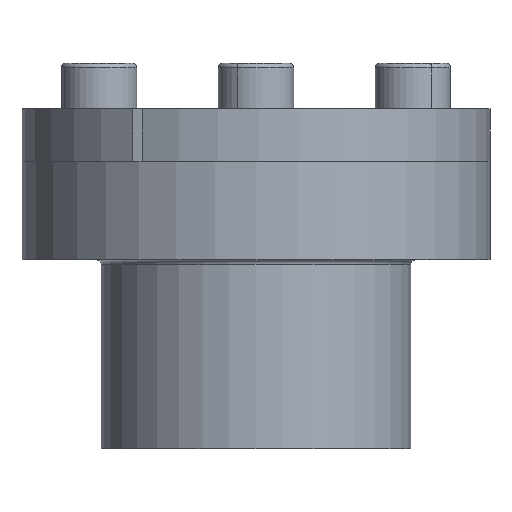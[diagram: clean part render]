
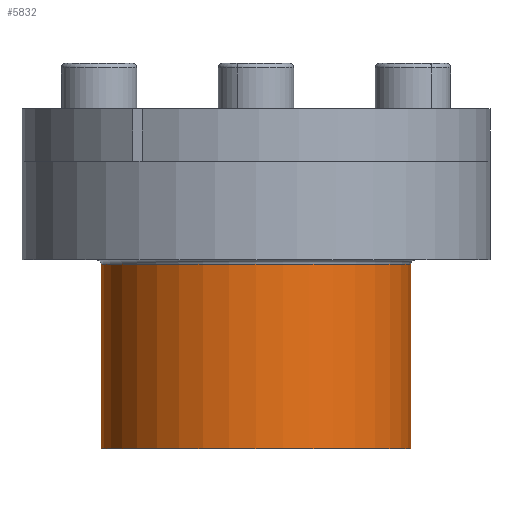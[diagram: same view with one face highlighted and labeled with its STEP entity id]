
A CAD part, front view. The second image highlights one B-rep face of the part: STEP entity #5832.
In plain terms, the highlighted cylindrical face has radius 20.5 mm (diameter 41 mm), a partial arc.
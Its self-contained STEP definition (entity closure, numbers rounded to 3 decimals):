
#172 = ORIENTED_EDGE ( 'NONE', *, *, #9455, .T. ) ;
#1081 = CYLINDRICAL_SURFACE ( 'NONE', #1329, 20.5 ) ;
#1329 = AXIS2_PLACEMENT_3D ( 'NONE', #3263, #3226, #8710 ) ;
#1541 = EDGE_CURVE ( 'NONE', #1811, #8133, #4181, .T. ) ;
#1811 = VERTEX_POINT ( 'NONE', #7514 ) ;
#2075 = VECTOR ( 'NONE', #9406, 1000. ) ;
#2337 = DIRECTION ( 'NONE',  ( 0., 0., -1. ) ) ;
#2359 = AXIS2_PLACEMENT_3D ( 'NONE', #8445, #3773, #9216 ) ;
#2377 = CARTESIAN_POINT ( 'NONE',  ( 20.5, 0., -8. ) ) ;
#2544 = EDGE_CURVE ( 'NONE', #8133, #2744, #2898, .T. ) ;
#2558 = VERTEX_POINT ( 'NONE', #7666 ) ;
#2681 = VECTOR ( 'NONE', #2337, 1000. ) ;
#2744 = VERTEX_POINT ( 'NONE', #2797 ) ;
#2797 = CARTESIAN_POINT ( 'NONE',  ( -20.5, 0., -33. ) ) ;
#2898 = CIRCLE ( 'NONE', #2359, 20.5 ) ;
#2930 = EDGE_LOOP ( 'NONE', ( #4095, #172, #6882, #4007 ) ) ;
#3087 = DIRECTION ( 'NONE',  ( 0., 0., -1. ) ) ;
#3226 = DIRECTION ( 'NONE',  ( 0., 0., -1. ) ) ;
#3263 = CARTESIAN_POINT ( 'NONE',  ( 0., 0., -8. ) ) ;
#3773 = DIRECTION ( 'NONE',  ( 0., 0., -1. ) ) ;
#3982 = CIRCLE ( 'NONE', #4760, 20.5 ) ;
#4007 = ORIENTED_EDGE ( 'NONE', *, *, #2544, .F. ) ;
#4095 = ORIENTED_EDGE ( 'NONE', *, *, #1541, .F. ) ;
#4181 = LINE ( 'NONE', #2377, #2075 ) ;
#4313 = EDGE_CURVE ( 'NONE', #2558, #2744, #8674, .T. ) ;
#4760 = AXIS2_PLACEMENT_3D ( 'NONE', #7762, #3087, #8539 ) ;
#5832 = ADVANCED_FACE ( 'NONE', ( #7973 ), #1081, .T. ) ;
#6882 = ORIENTED_EDGE ( 'NONE', *, *, #4313, .T. ) ;
#7034 = CARTESIAN_POINT ( 'NONE',  ( -20.5, 0., -8. ) ) ;
#7514 = CARTESIAN_POINT ( 'NONE',  ( 20.5, 0., -8.6 ) ) ;
#7666 = CARTESIAN_POINT ( 'NONE',  ( -20.5, 0., -8.6 ) ) ;
#7762 = CARTESIAN_POINT ( 'NONE',  ( 0., 0., -8.6 ) ) ;
#7973 = FACE_OUTER_BOUND ( 'NONE', #2930, .T. ) ;
#8133 = VERTEX_POINT ( 'NONE', #8819 ) ;
#8445 = CARTESIAN_POINT ( 'NONE',  ( 0., 0., -33. ) ) ;
#8539 = DIRECTION ( 'NONE',  ( -1., 0., 0. ) ) ;
#8674 = LINE ( 'NONE', #7034, #2681 ) ;
#8710 = DIRECTION ( 'NONE',  ( -1., 0., 0. ) ) ;
#8819 = CARTESIAN_POINT ( 'NONE',  ( 20.5, 0., -33. ) ) ;
#9216 = DIRECTION ( 'NONE',  ( -1., 0., 0. ) ) ;
#9406 = DIRECTION ( 'NONE',  ( 0., 0., -1. ) ) ;
#9455 = EDGE_CURVE ( 'NONE', #1811, #2558, #3982, .T. ) ;
